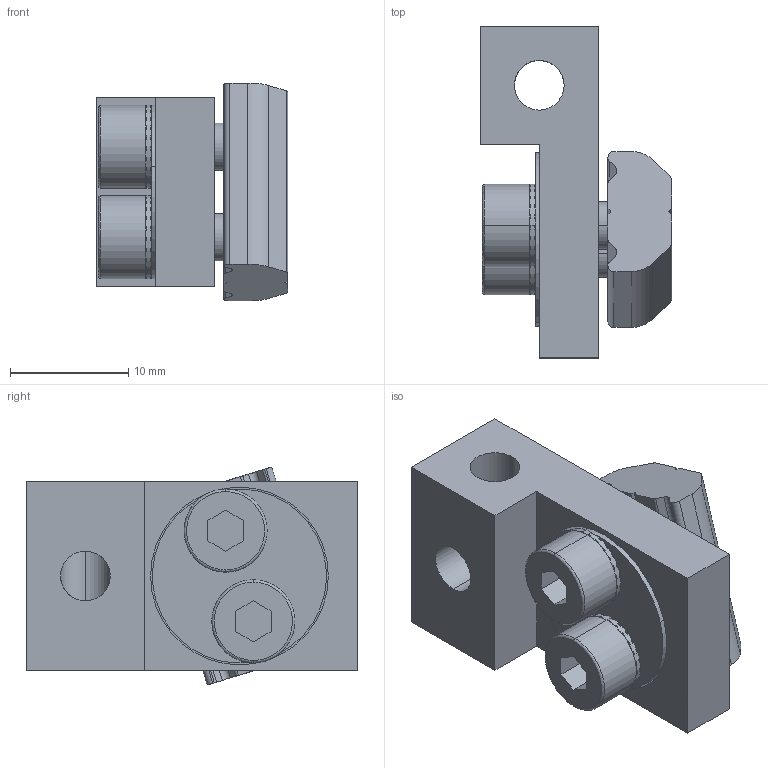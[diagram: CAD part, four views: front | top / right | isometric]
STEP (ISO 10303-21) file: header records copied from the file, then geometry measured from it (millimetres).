
FILE_DESCRIPTION (( 'STEP AP214' ), '1' );
FILE_NAME ('SVD-M5.STEP', '2019-11-07T03:10:55', ( '微软用户' ), ( '微软中国' ), 'SwSTEP 2.0', 'SolidWorks 2016', '' );
FILE_SCHEMA (( 'AUTOMOTIVE_DESIGN' ));
Length unit declared in the file: millimetre
Products named in the file (1): SVD-M5
Bounding box: 16.2 x 28 x 18.4 mm (x, y, z)
Volume: 3905.4 mm3; surface area: 3858.3 mm2
Topology: 7 solids, 7 shells, 506 faces, 1461 edges, 966 vertices
Faces by surface type: plane 444, cylinder 54, cone 4, bspline 4
Entity records: 22715 total; most frequent: CARTESIAN_POINT 3386, ORIENTED_EDGE 2922, DIRECTION 2893, EDGE_CURVE 1461, AXIS2_PLACEMENT_3D 973, VERTEX_POINT 966, VECTOR 947, LINE 947
